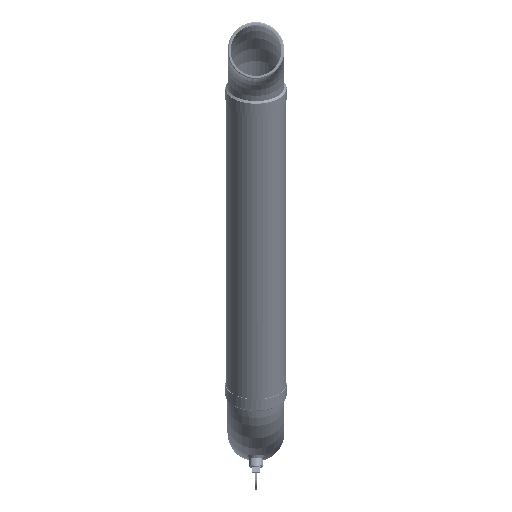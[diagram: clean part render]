
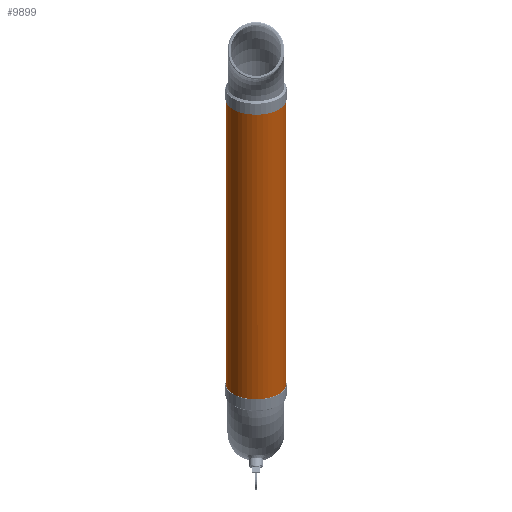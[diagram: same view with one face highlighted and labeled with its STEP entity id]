
A CAD part, front view. The second image highlights one B-rep face of the part: STEP entity #9899.
In plain terms, the highlighted cylindrical face has radius 60.35 mm (diameter 120.701 mm), a full revolution.
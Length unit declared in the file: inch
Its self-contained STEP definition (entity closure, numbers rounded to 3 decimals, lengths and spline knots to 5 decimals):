
#9872=CARTESIAN_POINT('',(0.0,0.0,0.0));
#9873=DIRECTION('',(0.0,0.0,1.0));
#9874=DIRECTION('',(-1.0,0.0,0.0));
#9875=AXIS2_PLACEMENT_3D('',#9872,#9873,#9874);
#9876=CYLINDRICAL_SURFACE('',#9875,2.376);
#9877=CARTESIAN_POINT('',(2.376,0.,28.055));
#9878=VERTEX_POINT('',#9877);
#9879=CARTESIAN_POINT('',(0.0,0.0,28.055));
#9880=DIRECTION('',(0.0,0.0,-1.0));
#9881=DIRECTION('',(-1.0,0.0,0.0));
#9882=AXIS2_PLACEMENT_3D('',#9879,#9880,#9881);
#9883=CIRCLE('',#9882,2.376);
#9884=EDGE_CURVE('',#9878,#9878,#9883,.T.);
#9885=ORIENTED_EDGE('',*,*,#9884,.T.);
#9886=EDGE_LOOP('',(#9885));
#9887=FACE_OUTER_BOUND('',#9886,.T.);
#9888=CARTESIAN_POINT('',(2.376,0.,0.0));
#9889=VERTEX_POINT('',#9888);
#9890=CARTESIAN_POINT('',(0.0,0.0,0.0));
#9891=DIRECTION('',(0.0,0.0,-1.0));
#9892=DIRECTION('',(-1.0,0.0,0.0));
#9893=AXIS2_PLACEMENT_3D('',#9890,#9891,#9892);
#9894=CIRCLE('',#9893,2.376);
#9895=EDGE_CURVE('',#9889,#9889,#9894,.T.);
#9896=ORIENTED_EDGE('',*,*,#9895,.F.);
#9897=EDGE_LOOP('',(#9896));
#9898=FACE_BOUND('',#9897,.T.);
#9899=ADVANCED_FACE('',(#9887,#9898),#9876,.T.);
